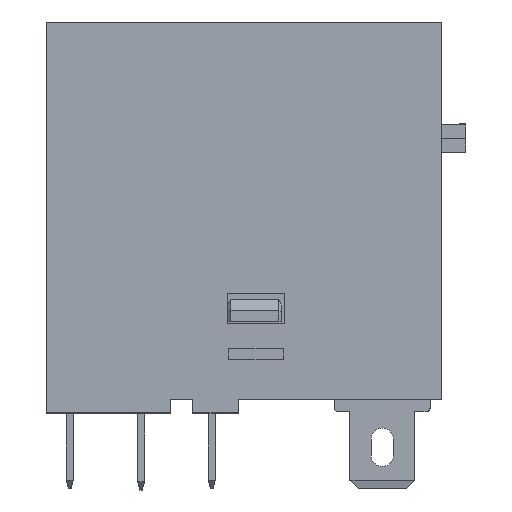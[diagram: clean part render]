
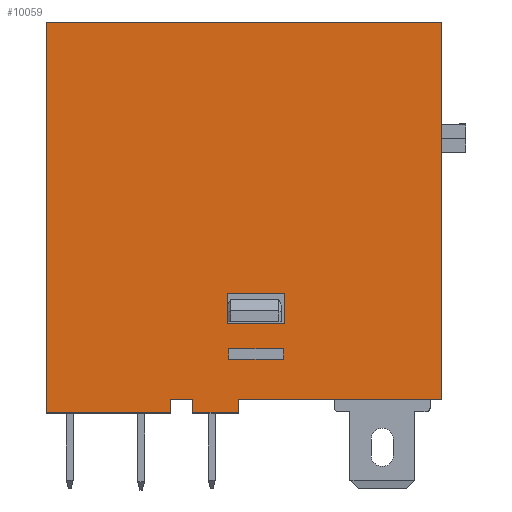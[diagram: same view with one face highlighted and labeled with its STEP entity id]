
A CAD part, top view. The second image highlights one B-rep face of the part: STEP entity #10059.
In plain terms, the highlighted planar face has unit normal (0, 0, 1).
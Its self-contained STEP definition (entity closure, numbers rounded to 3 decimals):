
#27 = VERTEX_POINT ( 'NONE', #560 ) ;
#28 = LINE ( 'NONE', #10382, #8874 ) ;
#91 = CARTESIAN_POINT ( 'NONE',  ( 3., 5.5, 6.3 ) ) ;
#193 = LINE ( 'NONE', #2105, #9040 ) ;
#224 = EDGE_CURVE ( 'NONE', #8907, #27, #6964, .T. ) ;
#331 = ORIENTED_EDGE ( 'NONE', *, *, #9021, .T. ) ;
#395 = EDGE_CURVE ( 'NONE', #8907, #4998, #5609, .T. ) ;
#417 = ORIENTED_EDGE ( 'NONE', *, *, #7745, .T. ) ;
#444 = FACE_BOUND ( 'NONE', #2131, .T. ) ;
#536 = EDGE_CURVE ( 'NONE', #10190, #8338, #4270, .T. ) ;
#560 = CARTESIAN_POINT ( 'NONE',  ( 14.4, 27.5, 6.3 ) ) ;
#588 = LINE ( 'NONE', #4676, #9441 ) ;
#734 = VECTOR ( 'NONE', #8123, 1000. ) ;
#850 = DIRECTION ( 'NONE',  ( 1., 0., 0. ) ) ;
#872 = CARTESIAN_POINT ( 'NONE',  ( 3., 5.5, 6.3 ) ) ;
#905 = DIRECTION ( 'NONE',  ( 0., -1., 0. ) ) ;
#1003 = CARTESIAN_POINT ( 'NONE',  ( -5.3, 0., 6.3 ) ) ;
#1020 = CARTESIAN_POINT ( 'NONE',  ( -1.2, 5.5, 6.3 ) ) ;
#1355 = VERTEX_POINT ( 'NONE', #2266 ) ;
#1394 = EDGE_CURVE ( 'NONE', #3343, #27, #9595, .T. ) ;
#1419 = DIRECTION ( 'NONE',  ( 0., 1., 0. ) ) ;
#1423 = CARTESIAN_POINT ( 'NONE',  ( -1.1, 3.7, 6.3 ) ) ;
#1467 = ORIENTED_EDGE ( 'NONE', *, *, #10794, .F. ) ;
#1773 = EDGE_CURVE ( 'NONE', #3120, #3164, #7865, .T. ) ;
#1841 = DIRECTION ( 'NONE',  ( -1., 0., 0. ) ) ;
#1850 = CARTESIAN_POINT ( 'NONE',  ( -3.7, -1., 6.3 ) ) ;
#1925 = VECTOR ( 'NONE', #905, 1000. ) ;
#2105 = CARTESIAN_POINT ( 'NONE',  ( -1.1, 3.7, 6.3 ) ) ;
#2131 = EDGE_LOOP ( 'NONE', ( #6484, #6291, #417, #331 ) ) ;
#2251 = VECTOR ( 'NONE', #3917, 1000. ) ;
#2266 = CARTESIAN_POINT ( 'NONE',  ( -1.2, 7.7, 6.3 ) ) ;
#2391 = VECTOR ( 'NONE', #8013, 1000. ) ;
#2407 = CARTESIAN_POINT ( 'NONE',  ( -14.4, 27.5, 6.3 ) ) ;
#2610 = CARTESIAN_POINT ( 'NONE',  ( -14.4, 0., 6.3 ) ) ;
#2622 = DIRECTION ( 'NONE',  ( 0., 1., 0. ) ) ;
#2861 = ORIENTED_EDGE ( 'NONE', *, *, #224, .F. ) ;
#2867 = ORIENTED_EDGE ( 'NONE', *, *, #3177, .F. ) ;
#2917 = CARTESIAN_POINT ( 'NONE',  ( 2.9, 2.9, 6.3 ) ) ;
#3014 = LINE ( 'NONE', #6881, #6489 ) ;
#3024 = LINE ( 'NONE', #4677, #734 ) ;
#3120 = VERTEX_POINT ( 'NONE', #11087 ) ;
#3164 = VERTEX_POINT ( 'NONE', #872 ) ;
#3177 = EDGE_CURVE ( 'NONE', #9565, #8289, #3014, .T. ) ;
#3207 = EDGE_CURVE ( 'NONE', #1355, #4457, #6237, .T. ) ;
#3312 = CARTESIAN_POINT ( 'NONE',  ( -3.7, -1., 6.3 ) ) ;
#3343 = VERTEX_POINT ( 'NONE', #7993 ) ;
#3568 = CARTESIAN_POINT ( 'NONE',  ( 2.9, 3.7, 6.3 ) ) ;
#3683 = VECTOR ( 'NONE', #7859, 1000. ) ;
#3721 = EDGE_CURVE ( 'NONE', #1355, #3120, #10487, .T. ) ;
#3753 = CARTESIAN_POINT ( 'NONE',  ( -14.4, 0., 6.3 ) ) ;
#3816 = CARTESIAN_POINT ( 'NONE',  ( 3., 7.7, 6.3 ) ) ;
#3917 = DIRECTION ( 'NONE',  ( 0., -1., 0. ) ) ;
#4054 = ORIENTED_EDGE ( 'NONE', *, *, #9706, .T. ) ;
#4270 = LINE ( 'NONE', #10791, #2251 ) ;
#4389 = EDGE_CURVE ( 'NONE', #3164, #4457, #4861, .T. ) ;
#4418 = VECTOR ( 'NONE', #9175, 1000. ) ;
#4457 = VERTEX_POINT ( 'NONE', #1020 ) ;
#4478 = CARTESIAN_POINT ( 'NONE',  ( -5.3, -1., 6.3 ) ) ;
#4500 = CARTESIAN_POINT ( 'NONE',  ( 2.9, 2.9, 6.3 ) ) ;
#4636 = ORIENTED_EDGE ( 'NONE', *, *, #395, .T. ) ;
#4677 = CARTESIAN_POINT ( 'NONE',  ( 14.4, 3.7, 6.3 ) ) ;
#4676 = CARTESIAN_POINT ( 'NONE',  ( -5.3, -1., 6.3 ) ) ;
#4861 = LINE ( 'NONE', #91, #9133 ) ;
#4998 = VERTEX_POINT ( 'NONE', #10831 ) ;
#5093 = VERTEX_POINT ( 'NONE', #10987 ) ;
#5099 = VECTOR ( 'NONE', #9751, 1000. ) ;
#5227 = DIRECTION ( 'NONE',  ( -1., 0., 0. ) ) ;
#5266 = VERTEX_POINT ( 'NONE', #4478 ) ;
#5404 = VERTEX_POINT ( 'NONE', #9797 ) ;
#5460 = LINE ( 'NONE', #4500, #9732 ) ;
#5535 = DIRECTION ( 'NONE',  ( 0., 1., 0. ) ) ;
#5550 = DIRECTION ( 'NONE',  ( 0., 1., 0. ) ) ;
#5609 = LINE ( 'NONE', #5808, #7637 ) ;
#5614 = CARTESIAN_POINT ( 'NONE',  ( -1.1, 2.9, 6.3 ) ) ;
#5648 = ORIENTED_EDGE ( 'NONE', *, *, #1394, .T. ) ;
#5808 = CARTESIAN_POINT ( 'NONE',  ( -14.4, 0., 6.3 ) ) ;
#5905 = EDGE_CURVE ( 'NONE', #5404, #5093, #7913, .T. ) ;
#5923 = DIRECTION ( 'NONE',  ( 0., -1., 0. ) ) ;
#6202 = ORIENTED_EDGE ( 'NONE', *, *, #3721, .T. ) ;
#6237 = LINE ( 'NONE', #6916, #1925 ) ;
#6277 = CARTESIAN_POINT ( 'NONE',  ( -3.7, 0., 6.3 ) ) ;
#6291 = ORIENTED_EDGE ( 'NONE', *, *, #536, .T. ) ;
#6369 = ORIENTED_EDGE ( 'NONE', *, *, #1773, .T. ) ;
#6424 = AXIS2_PLACEMENT_3D ( 'NONE', #9320, #11033, #5923 ) ;
#6484 = ORIENTED_EDGE ( 'NONE', *, *, #9443, .F. ) ;
#6489 = VECTOR ( 'NONE', #2622, 1000. ) ;
#6518 = EDGE_CURVE ( 'NONE', #5093, #3343, #10176, .T. ) ;
#6621 = VERTEX_POINT ( 'NONE', #1003 ) ;
#6881 = CARTESIAN_POINT ( 'NONE',  ( -3.7, -1., 6.3 ) ) ;
#6916 = CARTESIAN_POINT ( 'NONE',  ( -1.2, 7.7, 6.3 ) ) ;
#6964 = LINE ( 'NONE', #2407, #4418 ) ;
#7027 = FACE_BOUND ( 'NONE', #9670, .T. ) ;
#7607 = PLANE ( 'NONE',  #6424 ) ;
#7637 = VECTOR ( 'NONE', #9852, 1000. ) ;
#7718 = CARTESIAN_POINT ( 'NONE',  ( 3., 7.7, 6.3 ) ) ;
#7745 = EDGE_CURVE ( 'NONE', #8338, #7936, #5460, .T. ) ;
#7828 = EDGE_CURVE ( 'NONE', #6621, #8289, #9214, .T. ) ;
#7859 = DIRECTION ( 'NONE',  ( -1., 0., 0. ) ) ;
#7865 = LINE ( 'NONE', #3816, #9840 ) ;
#7880 = ORIENTED_EDGE ( 'NONE', *, *, #10194, .F. ) ;
#7909 = VECTOR ( 'NONE', #10296, 1000. ) ;
#7913 = LINE ( 'NONE', #9719, #5099 ) ;
#7936 = VERTEX_POINT ( 'NONE', #5614 ) ;
#7962 = ORIENTED_EDGE ( 'NONE', *, *, #6518, .T. ) ;
#7964 = LINE ( 'NONE', #1850, #3683 ) ;
#7993 = CARTESIAN_POINT ( 'NONE',  ( 14.4, 0., 6.3 ) ) ;
#8013 = DIRECTION ( 'NONE',  ( 1., 0., 0. ) ) ;
#8123 = DIRECTION ( 'NONE',  ( -1., 0., 0. ) ) ;
#8289 = VERTEX_POINT ( 'NONE', #6277 ) ;
#8338 = VERTEX_POINT ( 'NONE', #2917 ) ;
#8756 = EDGE_LOOP ( 'NONE', ( #5648, #2861, #4636, #1467, #4054, #9027, #2867, #7880, #9637, #7962 ) ) ;
#8797 = DIRECTION ( 'NONE',  ( -1., 0., 0. ) ) ;
#8874 = VECTOR ( 'NONE', #1841, 1000. ) ;
#8907 = VERTEX_POINT ( 'NONE', #10556 ) ;
#8961 = DIRECTION ( 'NONE',  ( 0., -1., 0. ) ) ;
#9021 = EDGE_CURVE ( 'NONE', #7936, #9925, #193, .T. ) ;
#9027 = ORIENTED_EDGE ( 'NONE', *, *, #7828, .T. ) ;
#9040 = VECTOR ( 'NONE', #5550, 1000. ) ;
#9133 = VECTOR ( 'NONE', #5227, 1000. ) ;
#9175 = DIRECTION ( 'NONE',  ( 1., 0., 0. ) ) ;
#9214 = LINE ( 'NONE', #3753, #2391 ) ;
#9320 = CARTESIAN_POINT ( 'NONE',  ( -14.4, 3.7, 6.3 ) ) ;
#9397 = ORIENTED_EDGE ( 'NONE', *, *, #4389, .T. ) ;
#9441 = VECTOR ( 'NONE', #5535, 1000. ) ;
#9443 = EDGE_CURVE ( 'NONE', #10190, #9925, #3024, .T. ) ;
#9562 = FACE_OUTER_BOUND ( 'NONE', #8756, .T. ) ;
#9565 = VERTEX_POINT ( 'NONE', #3312 ) ;
#9595 = LINE ( 'NONE', #9973, #11072 ) ;
#9637 = ORIENTED_EDGE ( 'NONE', *, *, #5905, .T. ) ;
#9670 = EDGE_LOOP ( 'NONE', ( #10029, #6202, #6369, #9397 ) ) ;
#9706 = EDGE_CURVE ( 'NONE', #5266, #6621, #588, .T. ) ;
#9719 = CARTESIAN_POINT ( 'NONE',  ( -0.4, -1., 6.3 ) ) ;
#9732 = VECTOR ( 'NONE', #8797, 1000. ) ;
#9751 = DIRECTION ( 'NONE',  ( 0., 1., 0. ) ) ;
#9797 = CARTESIAN_POINT ( 'NONE',  ( -0.4, -1., 6.3 ) ) ;
#9840 = VECTOR ( 'NONE', #8961, 1000. ) ;
#9852 = DIRECTION ( 'NONE',  ( 0., -1., 0. ) ) ;
#9925 = VERTEX_POINT ( 'NONE', #1423 ) ;
#9973 = CARTESIAN_POINT ( 'NONE',  ( 14.4, 0., 6.3 ) ) ;
#10029 = ORIENTED_EDGE ( 'NONE', *, *, #3207, .F. ) ;
#10059 = ADVANCED_FACE ( 'NONE', ( #444, #9562, #7027 ), #7607, .F. ) ;
#10176 = LINE ( 'NONE', #2610, #7909 ) ;
#10190 = VERTEX_POINT ( 'NONE', #3568 ) ;
#10194 = EDGE_CURVE ( 'NONE', #5404, #9565, #7964, .T. ) ;
#10227 = VECTOR ( 'NONE', #850, 1000. ) ;
#10296 = DIRECTION ( 'NONE',  ( 1., 0., 0. ) ) ;
#10382 = CARTESIAN_POINT ( 'NONE',  ( -14.4, -1., 6.3 ) ) ;
#10487 = LINE ( 'NONE', #7718, #10227 ) ;
#10556 = CARTESIAN_POINT ( 'NONE',  ( -14.4, 27.5, 6.3 ) ) ;
#10791 = CARTESIAN_POINT ( 'NONE',  ( 2.9, 3.7, 6.3 ) ) ;
#10794 = EDGE_CURVE ( 'NONE', #5266, #4998, #28, .T. ) ;
#10831 = CARTESIAN_POINT ( 'NONE',  ( -14.4, -1., 6.3 ) ) ;
#10987 = CARTESIAN_POINT ( 'NONE',  ( -0.4, 0., 6.3 ) ) ;
#11033 = DIRECTION ( 'NONE',  ( 0., 0., -1. ) ) ;
#11072 = VECTOR ( 'NONE', #1419, 1000. ) ;
#11087 = CARTESIAN_POINT ( 'NONE',  ( 3., 7.7, 6.3 ) ) ;
